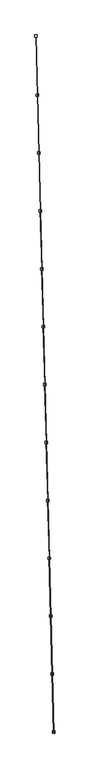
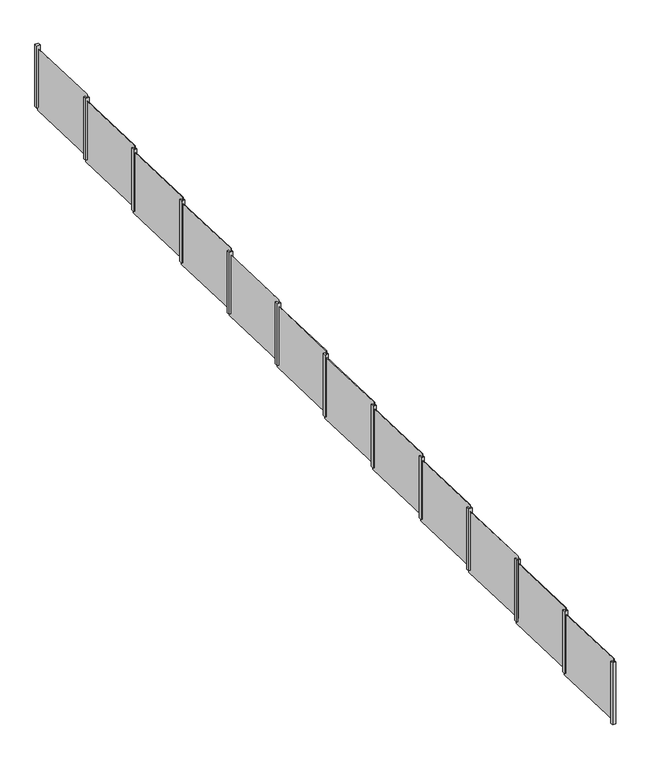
"""IFC4 building model written with IfcOpenShell, lengths in millimetres: railing geometry, REJA_PERIMETRAL_2000mm."""

from ifc_helpers import new_model, si_unit, frame, origin, place, context, project, spatial, polyline, outline, extrude, source, transform, mapped, element, save


def railing_235248c9(model_context):
    return source(origin(), model_context, "Body", "SweptSolid", [
        extrude(outline(polyline([(20701.4989571, 8227.142273), (20637.048573, 10726.3113645), (20647.0452494, 10726.569166), (20711.4956334, 8227.4000745), (20701.4989571, 8227.142273)])), frame((0.0, 0.0, 1437.775745), z_axis=(0.0, 0.0, 1.0), x_axis=(1.0, 0.0, 0.0)), (0.0, 0.0, 1.0), 2000.0),
        extrude(outline(polyline([(20656.8099564, 8214.5026171), (20654.231941, 8314.4693807), (20754.1987047, 8317.0473961), (20756.77672, 8217.0806324), (20656.8099564, 8214.5026171)])), frame((0.0, 0.0, 1333.6941614), z_axis=(0.0, 0.0, 1.0), x_axis=(1.0, 0.0, 0.0)), (0.0, 0.0, 1.0), 2000.0),
        extrude(outline(polyline([(20763.9634116, 5804.9808471), (20699.5130276, 8304.1499387), (20709.5097039, 8304.4077402), (20773.960088, 5805.2386487), (20763.9634116, 5804.9808471)])), frame((0.0, 0.0, 1229.6125777), z_axis=(0.0, 0.0, 1.0), x_axis=(1.0, 0.0, 0.0)), (0.0, 0.0, 1.0), 2000.0),
        extrude(outline(polyline([(20719.2744109, 5792.3411912), (20716.6963956, 5892.3079549), (20816.6631592, 5894.8859703), (20819.2411746, 5794.9192066), (20719.2744109, 5792.3411912)])), frame((0.0, 0.0, 1125.5309941), z_axis=(0.0, 0.0, 1.0), x_axis=(1.0, 0.0, 0.0)), (0.0, 0.0, 1.0), 2000.0),
        extrude(outline(polyline([(20826.4278662, 3382.8194213), (20761.9774821, 5881.9885128), (20771.9741585, 5882.2463143), (20836.4245425, 3383.0772228), (20826.4278662, 3382.8194213)])), frame((0.0, 0.0, 1021.4494104), z_axis=(0.0, 0.0, 1.0), x_axis=(1.0, 0.0, 0.0)), (0.0, 0.0, 1.0), 2000.0),
        extrude(outline(polyline([(20781.7388655, 3370.1797654), (20779.1608501, 3470.146529), (20879.1276138, 3472.7245444), (20881.7056291, 3372.7577807), (20781.7388655, 3370.1797654)])), frame((0.0, 0.0, 917.3678267), z_axis=(0.0, 0.0, 1.0), x_axis=(1.0, 0.0, 0.0)), (0.0, 0.0, 1.0), 2000.0),
        extrude(outline(polyline([(20888.8923207, 960.6579954), (20824.4419367, 3459.827087), (20834.438613, 3460.0848885), (20898.8889971, 960.915797), (20888.8923207, 960.6579954)])), frame((0.0, 0.0, 813.2862431), z_axis=(0.0, 0.0, 1.0), x_axis=(1.0, 0.0, 0.0)), (0.0, 0.0, 1.0), 2000.0),
        extrude(outline(polyline([(20844.20332, 948.0183395), (20841.6253047, 1047.9851032), (20941.5920683, 1050.5631186), (20944.1700837, 950.5963549), (20844.20332, 948.0183395)])), frame((0.0, 0.0, 709.2046594), z_axis=(0.0, 0.0, 1.0), x_axis=(1.0, 0.0, 0.0)), (0.0, 0.0, 1.0), 2000.0),
        extrude(outline(polyline([(20951.3567753, -1461.5034304), (20886.9063912, 1037.6656611), (20896.9030676, 1037.9234626), (20961.3534517, -1461.2456289), (20951.3567753, -1461.5034304)])), frame((0.0, 0.0, 605.1230758), z_axis=(0.0, 0.0, 1.0), x_axis=(1.0, 0.0, 0.0)), (0.0, 0.0, 1.0), 2000.0),
        extrude(outline(polyline([(20906.6677746, -1474.1430863), (20904.0897592, -1374.1763227), (21004.0565229, -1371.5983073), (21006.6345382, -1471.565071), (20906.6677746, -1474.1430863)])), frame((0.0, 0.0, 501.0414921), z_axis=(0.0, 0.0, 1.0), x_axis=(1.0, 0.0, 0.0)), (0.0, 0.0, 1.0), 2000.0),
        extrude(outline(polyline([(21013.8212298, -3883.6648563), (20949.3708458, -1384.4957647), (20959.3675221, -1384.2379632), (21023.8179062, -3883.4070547), (21013.8212298, -3883.6648563)])), frame((0.0, 0.0, 396.9599085), z_axis=(0.0, 0.0, 1.0), x_axis=(1.0, 0.0, 0.0)), (0.0, 0.0, 1.0), 2000.0),
        extrude(outline(polyline([(20969.1322291, -3896.3045122), (20966.5542138, -3796.3377485), (21066.5209774, -3793.7597331), (21069.0989928, -3893.7264968), (20969.1322291, -3896.3045122)])), frame((0.0, 0.0, 292.8783248), z_axis=(0.0, 0.0, 1.0), x_axis=(1.0, 0.0, 0.0)), (0.0, 0.0, 1.0), 2000.0),
        extrude(outline(polyline([(21076.2856844, -6305.8262821), (21011.8353003, -3806.6571906), (21021.8319767, -3806.3993891), (21086.2823608, -6305.5684806), (21076.2856844, -6305.8262821)])), frame((0.0, 0.0, 188.7967412), z_axis=(0.0, 0.0, 1.0), x_axis=(1.0, 0.0, 0.0)), (0.0, 0.0, 1.0), 2000.0),
        extrude(outline(polyline([(21031.5966837, -6318.465938), (21029.0186683, -6218.4991744), (21128.985432, -6215.921159), (21131.5634473, -6315.8879227), (21031.5966837, -6318.465938)])), frame((0.0, 0.0, 84.7151575), z_axis=(0.0, 0.0, 1.0), x_axis=(1.0, 0.0, 0.0)), (0.0, 0.0, 1.0), 2000.0),
        extrude(outline(polyline([(21138.7501389, -8727.987708), (21074.2997549, -6228.8186164), (21084.2964313, -6228.5608149), (21148.7468153, -8727.7299064), (21138.7501389, -8727.987708)])), frame((0.0, 0.0, -19.3664261), z_axis=(0.0, 0.0, 1.0), x_axis=(1.0, 0.0, 0.0)), (0.0, 0.0, 1.0), 2000.0),
        extrude(outline(polyline([(21094.0611382, -8740.6273639), (21091.4831229, -8640.6606002), (21191.4498865, -8638.0825848), (21194.0279019, -8738.0493485), (21094.0611382, -8740.6273639)])), frame((0.0, 0.0, -123.4480098), z_axis=(0.0, 0.0, 1.0), x_axis=(1.0, 0.0, 0.0)), (0.0, 0.0, 1.0), 2000.0),
        extrude(outline(polyline([(21201.2145935, -11150.1491338), (21136.7642094, -8650.9800423), (21146.7608858, -8650.7222408), (21211.2112699, -11149.8913323), (21201.2145935, -11150.1491338)])), frame((0.0, 0.0, -227.5295934), z_axis=(0.0, 0.0, 1.0), x_axis=(1.0, 0.0, 0.0)), (0.0, 0.0, 1.0), 2000.0),
        extrude(outline(polyline([(21156.5255928, -11162.7887897), (21153.9475774, -11062.8220261), (21253.9143411, -11060.2440107), (21256.4923564, -11160.2107744), (21156.5255928, -11162.7887897)])), frame((0.0, 0.0, -331.6111771), z_axis=(0.0, 0.0, 1.0), x_axis=(1.0, 0.0, 0.0)), (0.0, 0.0, 1.0), 2000.0),
        extrude(outline(polyline([(21263.679048, -13572.3105597), (21199.228664, -11073.1414681), (21209.2253404, -11072.8836666), (21273.6757244, -13572.0527581), (21263.679048, -13572.3105597)])), frame((0.0, 0.0, -435.6927608), z_axis=(0.0, 0.0, 1.0), x_axis=(1.0, 0.0, 0.0)), (0.0, 0.0, 1.0), 2000.0),
        extrude(outline(polyline([(21218.9900473, -13584.9502156), (21216.412032, -13484.9834519), (21316.3787956, -13482.4054365), (21318.956811, -13582.3722002), (21218.9900473, -13584.9502156)])), frame((0.0, 0.0, -539.7743444), z_axis=(0.0, 0.0, 1.0), x_axis=(1.0, 0.0, 0.0)), (0.0, 0.0, 1.0), 2000.0),
        extrude(outline(polyline([(21326.1435026, -15994.4719855), (21261.6931185, -13495.302894), (21271.6897949, -13495.0450924), (21336.140179, -15994.214184), (21326.1435026, -15994.4719855)])), frame((0.0, 0.0, -643.8559281), z_axis=(0.0, 0.0, 1.0), x_axis=(1.0, 0.0, 0.0)), (0.0, 0.0, 1.0), 2000.0),
        extrude(outline(polyline([(21281.4545019, -16007.1116414), (21278.8764865, -15907.1448778), (21378.8432502, -15904.5668624), (21381.4212655, -16004.533626), (21281.4545019, -16007.1116414)])), frame((0.0, 0.0, -747.9375117), z_axis=(0.0, 0.0, 1.0), x_axis=(1.0, 0.0, 0.0)), (0.0, 0.0, 1.0), 2000.0),
        extrude(outline(polyline([(21388.6079571, -18416.6334114), (21324.1575731, -15917.4643198), (21334.1542495, -15917.2065183), (21398.6046335, -18416.3756098), (21388.6079571, -18416.6334114)])), frame((0.0, 0.0, -852.0190954), z_axis=(0.0, 0.0, 1.0), x_axis=(1.0, 0.0, 0.0)), (0.0, 0.0, 1.0), 2000.0),
        extrude(outline(polyline([(20593.0564941, 10686.6474248), (20590.4784788, 10786.6141884), (20690.4452424, 10789.1922038), (20693.0232578, 10689.2254401), (20593.0564941, 10686.6474248)])), frame((0.0, 0.0, 1546.1529568), z_axis=(0.0, 0.0, 1.0), x_axis=(1.0, 0.0, 0.0)), (0.0, 0.0, 1.0), 2000.0),
        extrude(outline(polyline([(21343.9189564, -18429.2730673), (21341.3409411, -18329.3063036), (21441.3077047, -18326.7282882), (21443.8857201, -18426.6950519), (21343.9189564, -18429.2730673)])), frame((0.0, 0.0, -956.100679), z_axis=(0.0, 0.0, 1.0), x_axis=(1.0, 0.0, 0.0)), (0.0, 0.0, 1.0), 2000.0),
    ])


if __name__ == "__main__":
    model = new_model("IFC4")
    model_context = context("Model", 3, world=origin())
    ifc_project = project(units=[si_unit("LENGTHUNIT", "METRE", prefix="MILLI")], contexts=[model_context])
    site = spatial("IfcSite", under=ifc_project)
    building = spatial("IfcBuilding", under=site)
    placement = place(None, origin())
    railing_shape = railing_235248c9(model_context)
    element("IfcRailing", 1, ObjectType="REJA_PERIMETRAL_2000mm", at=placement, inside=building, context=model_context, shape_type="MappedRepresentation", body=[
        mapped(railing_shape, transform((0.0, 0.0, 0.0), x_axis=(1.0, 0.0, 0.0), y_axis=(0.0, 1.0, 0.0), z_axis=(0.0, 0.0, 1.0))),
    ])
    save(model, "model.ifc")
